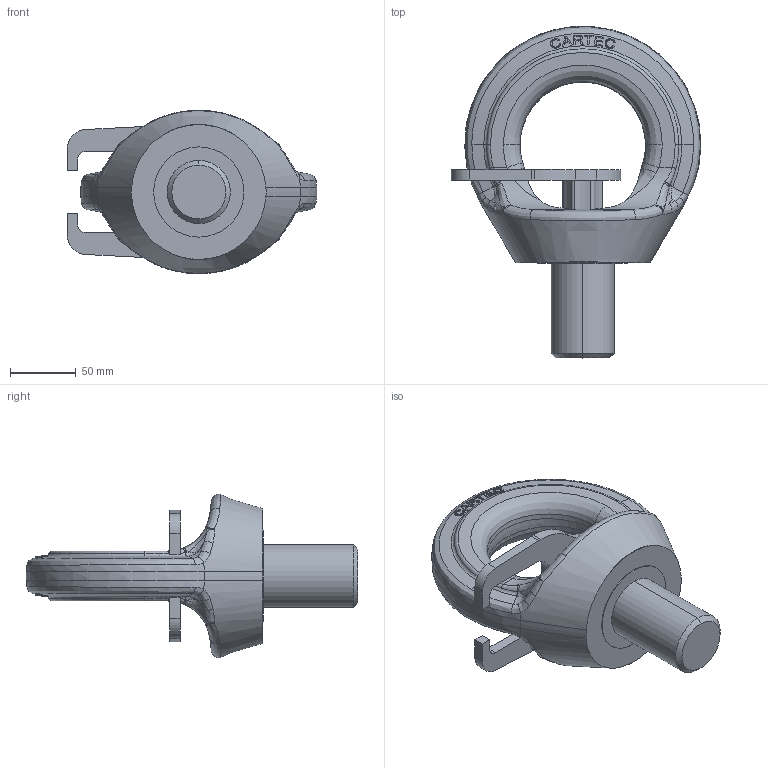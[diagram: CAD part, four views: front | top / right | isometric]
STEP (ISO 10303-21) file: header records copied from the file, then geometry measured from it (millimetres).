
FILE_DESCRIPTION(('STEP AP214'),'1');
FILE_NAME('c807ht48.stp','2017-03-27T13:42:27',('TraceParts'),('TraceParts S.A.'),'Spatial InterOp 3D',' ',' ');
FILE_SCHEMA(('automotive_design'));
Length unit declared in the file: millimetre
Products named in the file (3): c807ht48_1; c807ht48_2; c807ht48_3
Bounding box: 189.68 x 252.36 x 124.24 mm (x, y, z)
Volume: 1088926.8 mm3; surface area: 137868.8 mm2
Topology: 3 solids, 3 shells, 392 faces, 1045 edges, 652 vertices
Faces by surface type: bspline 178, plane 131, cylinder 59, torus 12, cone 12
Entity records: 35383 total; most frequent: CARTESIAN_POINT 23705, ORIENTED_EDGE 2040, DIRECTION 1359, EDGE_CURVE 1020, VERTEX_POINT 652, AXIS2_PLACEMENT_3D 490, EDGE_LOOP 414, STYLED_ITEM 395
